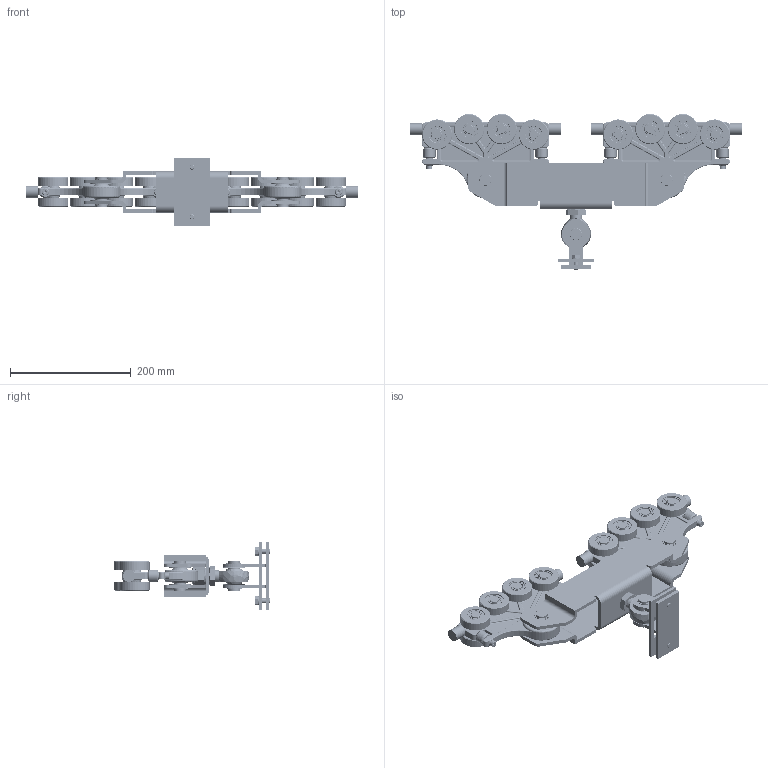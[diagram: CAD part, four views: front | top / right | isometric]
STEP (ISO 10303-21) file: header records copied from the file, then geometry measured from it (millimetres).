
FILE_DESCRIPTION (( 'STEP AP214' ), '1' );
FILE_NAME ('900.200.201.STEP', '2015-02-23T15:41:07', ( '' ), ( '' ), 'SwSTEP 2.0', 'SolidWorks 2012', '' );
FILE_SCHEMA (( 'AUTOMOTIVE_DESIGN' ));
Length unit declared in the file: millimetre
Products named in the file (27): 900.200.201; 900.200.003-1; 900.200.005; CUSCINETTI A SFERE_6002-2Z; circlip for shafts normal_din_Circlip DIN 471 - 15 x 1; circlip for bores normal_din_Circlip DIN 472 - 32 x 1.2; 800.019.127; socket head cap screw_iso_ISO 4762 M6 x 45 --- 24N; plain washer chamfered grade a_iso_Washer ISO 7090 - 6; 900.200.001-3; GE 20 FW; 900.200.004-2; RONDELLE UNI 6592 INOX_6.4x12.5 UNI 6592 INOX; 900.200.102-1; 900.200.008-2; DADO ESAGONALE M20 AUTOBLOCCANTE_M20 UNI7473; RONDELLE UNI 6592_20x28 UNI6592; hex thin nut chamfered gradeab_iso_Hexagon Thin Nut ISO - 4035 - M20 - N; 900.100.004-1; 900.100.005; VITI TE UNI 5739_M8x20 UNI 5739; RONDELLA 20 (21-37-1.5); 900.100.021; circlip for shafts normal_din_Circlip DIN 471 - 20 x 1.2; curved spring lock washer_din_Spring washer DIN 128 - A10; 900.100.102_6; SNODO_PFE_20U
Assembly tree (79 placements, depth 3):
  900.200.201
    900.200.102-1  x2
      900.200.003-1
      900.200.005
      CUSCINETTI A SFERE_6002-2Z
      circlip for shafts normal_din_Circlip DIN 471 - 15 x 1
      circlip for bores normal_din_Circlip DIN 472 - 32 x 1.2
      800.019.127
      socket head cap screw_iso_ISO 4762 M6 x 45 --- 24N
      plain washer chamfered grade a_iso_Washer ISO 7090 - 6
      900.200.001-3
      GE 20 FW
      900.200.004-2
      RONDELLE UNI 6592 INOX_6.4x12.5 UNI 6592 INOX
    900.200.008-2
    DADO ESAGONALE M20 AUTOBLOCCANTE_M20 UNI7473
    RONDELLE UNI 6592_20x28 UNI6592
    hex thin nut chamfered gradeab_iso_Hexagon Thin Nut ISO - 4035 - M20 - N
    900.100.102_6
      900.100.004-1
      900.100.005
      VITI TE UNI 5739_M8x20 UNI 5739  x2
      RONDELLA 20 (21-37-1.5)  x2
      900.100.021
      circlip for shafts normal_din_Circlip DIN 471 - 20 x 1.2  x2
      curved spring lock washer_din_Spring washer DIN 128 - A10  x2
    RONDELLA 20 (21-37-1.5)  x4
    SNODO_PFE_20U
    900.100.021  x2
    circlip for shafts normal_din_Circlip DIN 471 - 20 x 1.2  x4
Bounding box: 550 x 258.38 x 112 mm (x, y, z)
Volume: 1427251.6 mm3; surface area: 551192 mm2
Topology: 138 solids, 138 shells, 3628 faces, 8399 edges, 5234 vertices
Faces by surface type: cylinder 1554, plane 914, cone 447, torus 386, bspline 327
Entity records: 40008 total; most frequent: CARTESIAN_POINT 14176, DIRECTION 5176, ORIENTED_EDGE 5000, EDGE_CURVE 2500, AXIS2_PLACEMENT_3D 2131, VERTEX_POINT 1531, EDGE_LOOP 1205, CIRCLE 1132
